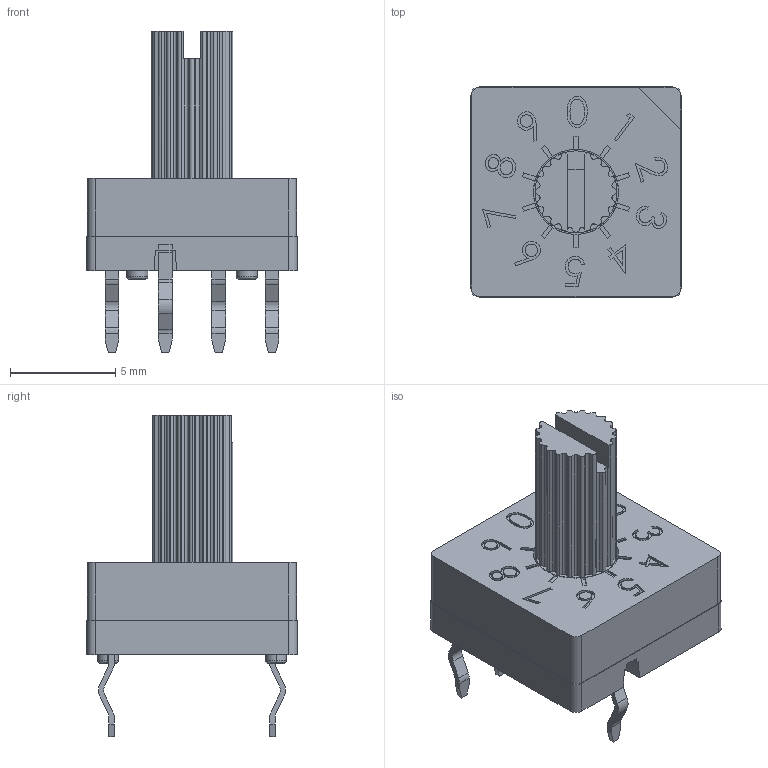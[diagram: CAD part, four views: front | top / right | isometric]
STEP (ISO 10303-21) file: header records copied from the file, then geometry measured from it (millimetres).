
FILE_DESCRIPTION (( 'STEP AP214' ), '1' );
FILE_NAME ('RKH4H-10R.STEP', '2022-06-07T04:12:44', ( '' ), ( '' ), 'SwSTEP 2.0', 'SolidWorks 2017', '' );
FILE_SCHEMA (( 'AUTOMOTIVE_DESIGN' ));
Length unit declared in the file: inch
Products named in the file (6): RK40-1_預設; RKH4H-10R; RK4T-H(成型)-1_預設; RK4C-HM-10; RK4SH-10R_預設; RK4B-H(塑膠)-1_預設
Assembly tree (5 placements, depth 2):
  RKH4H-10R
    RK4SH-10R_預設
    RK40-1_預設
    RK4B-H(塑膠)-1_預設
    RK4T-H(成型)-1_預設
    RK4C-HM-10
Bounding box: 10 x 10 x 15.29 mm (x, y, z)
Volume: 569.4 mm3; surface area: 1186.3 mm2
Topology: 5 solids, 7 shells, 864 faces, 2379 edges, 1574 vertices
Faces by surface type: plane 461, cylinder 211, bspline 190, cone 2
Entity records: 36428 total; most frequent: CARTESIAN_POINT 13135, ORIENTED_EDGE 4758, DIRECTION 3640, EDGE_CURVE 2379, VERTEX_POINT 1574, LINE 1526, VECTOR 1526, AXIS2_PLACEMENT_3D 1057
